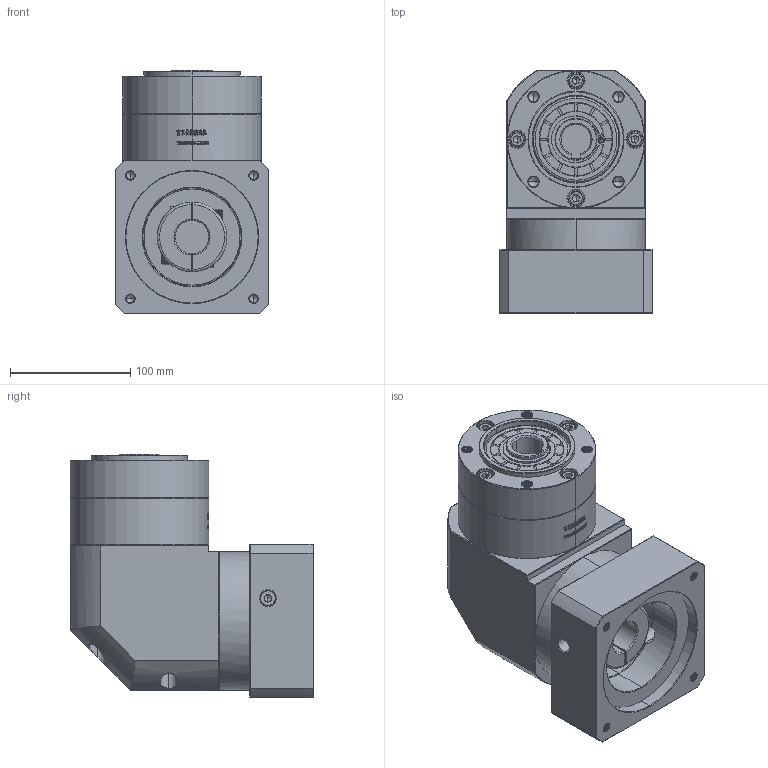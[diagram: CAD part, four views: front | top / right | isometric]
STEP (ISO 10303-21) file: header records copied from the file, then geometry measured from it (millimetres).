
FILE_DESCRIPTION (( 'STEP AP214' ), '1' );
FILE_NAME ('ZER120A-K25-L1-28-110-145-M8.step', '2023-03-14T08:27:26', ( '' ), ( '' ), 'SwSTEP 2.0', 'SolidWorks 2016', '' );
FILE_SCHEMA (( 'AUTOMOTIVE_DESIGN' ));
Length unit declared in the file: millimetre
Products named in the file (1): ZER120A-K25-L1-28-110-145-M8
Bounding box: 128 x 202.4 x 203 mm (x, y, z)
Volume: 2980279.8 mm3; surface area: 251530.2 mm2
Topology: 6 solids, 6 shells, 2900 faces, 7781 edges, 5022 vertices
Faces by surface type: plane 1457, bspline 610, cylinder 499, cone 326, torus 8
Entity records: 163907 total; most frequent: CARTESIAN_POINT 65908, ORIENTED_EDGE 15490, DIRECTION 11053, EDGE_CURVE 7745, VERTEX_POINT 5022, VECTOR 4753, LINE 4753, AXIS2_PLACEMENT_3D 3150
